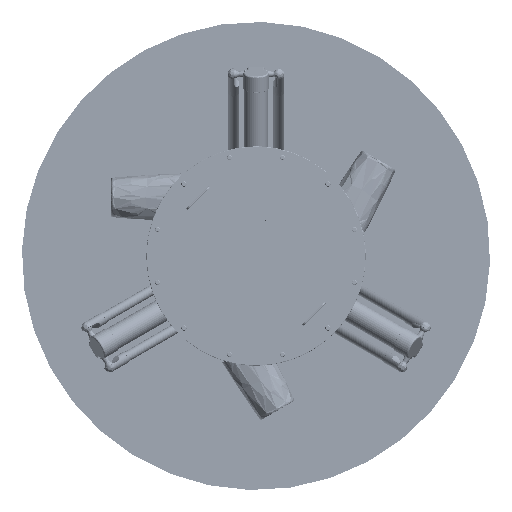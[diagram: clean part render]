
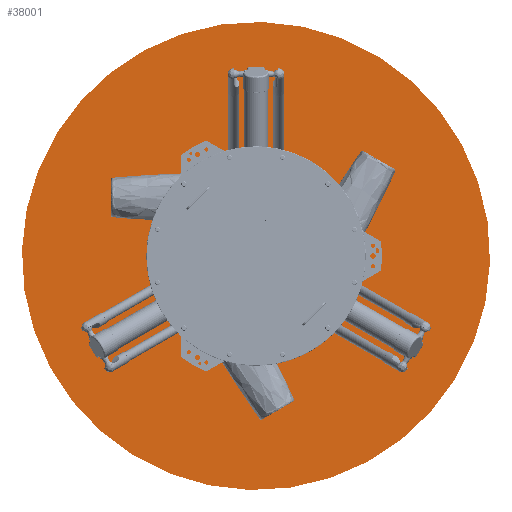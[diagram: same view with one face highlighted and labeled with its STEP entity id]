
A CAD part, front view. The second image highlights one B-rep face of the part: STEP entity #38001.
In plain terms, the highlighted planar face has unit normal (0, -1, 0) as drawn and (0, 1, 0) by its records, which use the part's own axes.
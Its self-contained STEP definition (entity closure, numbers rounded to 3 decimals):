
#9172 = CARTESIAN_POINT ( 'NONE',  ( 0., 350., 0. ) ) ;
#12231 = DIRECTION ( 'NONE',  ( 0., -1., 0. ) ) ;
#32885 = EDGE_LOOP ( 'NONE', ( #90555 ) ) ;
#38001 = ADVANCED_FACE ( 'NONE', ( #121319 ), #255401, .F. ) ;
#60921 = DIRECTION ( 'NONE',  ( 0., 0., -1. ) ) ;
#90555 = ORIENTED_EDGE ( 'NONE', *, *, #94878, .F. ) ;
#94878 = EDGE_CURVE ( 'NONE', #260798, #260798, #241832, .T. ) ;
#110687 = CARTESIAN_POINT ( 'NONE',  ( 0., 350., 0. ) ) ;
#121319 = FACE_OUTER_BOUND ( 'NONE', #32885, .T. ) ;
#154254 = AXIS2_PLACEMENT_3D ( 'NONE', #110687, #12231, #60921 ) ;
#181571 = DIRECTION ( 'NONE',  ( 0., -1., 0. ) ) ;
#201694 = DIRECTION ( 'NONE',  ( 0., 0., -1. ) ) ;
#224137 = AXIS2_PLACEMENT_3D ( 'NONE', #9172, #181571, #201694 ) ;
#241832 = CIRCLE ( 'NONE', #224137, 800. ) ;
#255401 = PLANE ( 'NONE',  #154254 ) ;
#260798 = VERTEX_POINT ( 'NONE', #298365 ) ;
#298365 = CARTESIAN_POINT ( 'NONE',  ( 0., 350., -800. ) ) ;
